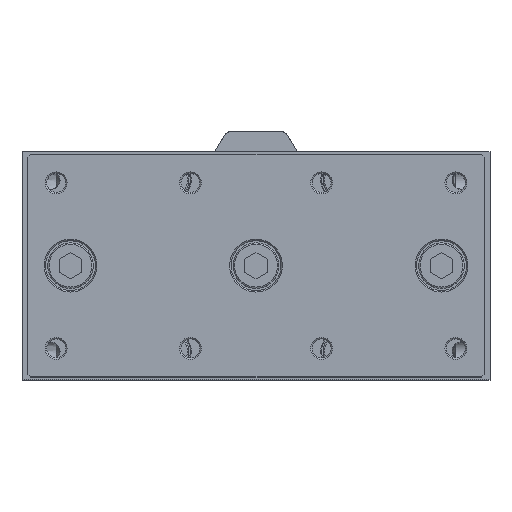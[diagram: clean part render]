
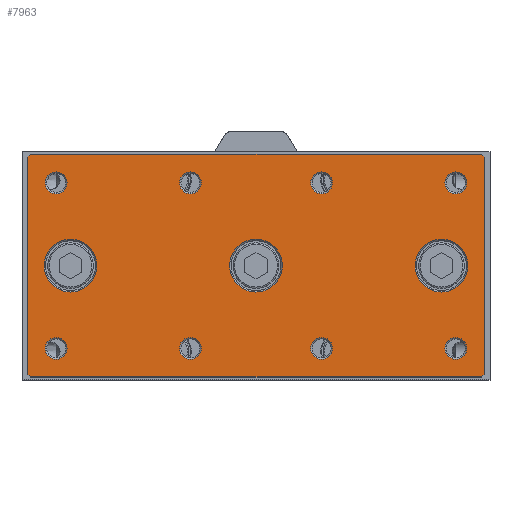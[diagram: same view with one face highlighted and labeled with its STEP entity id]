
A CAD part, top view. The second image highlights one B-rep face of the part: STEP entity #7963.
In plain terms, the highlighted planar face has unit normal (0, 0, 1).
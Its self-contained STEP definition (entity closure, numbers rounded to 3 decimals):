
#7745=CARTESIAN_POINT('',(-78.641,-40.316,105.5));
#7746=VERTEX_POINT('',#7745);
#7747=CARTESIAN_POINT('',(-79.641,-39.316,105.5));
#7748=VERTEX_POINT('',#7747);
#7749=CARTESIAN_POINT('',(-78.641,-40.316,105.5));
#7750=DIRECTION('',(-0.707,0.707,0.0));
#7751=VECTOR('',#7750,1.414);
#7752=LINE('',#7749,#7751);
#7753=EDGE_CURVE('',#7746,#7748,#7752,.T.);
#7780=CARTESIAN_POINT('',(0.359,-1.316,105.5));
#7781=DIRECTION('',(0.0,0.0,1.0));
#7782=DIRECTION('',(1.0,0.0,0.0));
#7783=AXIS2_PLACEMENT_3D('',#7780,#7781,#7782);
#7784=PLANE('',#7783);
#7785=ORIENTED_EDGE('',*,*,#7753,.F.);
#7786=CARTESIAN_POINT('',(79.359,-40.316,105.5));
#7787=VERTEX_POINT('',#7786);
#7788=CARTESIAN_POINT('',(79.359,-40.316,105.5));
#7789=DIRECTION('',(-1.0,0.0,0.0));
#7790=VECTOR('',#7789,158.0);
#7791=LINE('',#7788,#7790);
#7792=EDGE_CURVE('',#7787,#7746,#7791,.T.);
#7793=ORIENTED_EDGE('',*,*,#7792,.F.);
#7794=CARTESIAN_POINT('',(80.359,-39.316,105.5));
#7795=VERTEX_POINT('',#7794);
#7796=CARTESIAN_POINT('',(80.359,-39.316,105.5));
#7797=DIRECTION('',(-0.707,-0.707,0.0));
#7798=VECTOR('',#7797,1.414);
#7799=LINE('',#7796,#7798);
#7800=EDGE_CURVE('',#7795,#7787,#7799,.T.);
#7801=ORIENTED_EDGE('',*,*,#7800,.F.);
#7802=CARTESIAN_POINT('',(80.359,36.684,105.5));
#7803=VERTEX_POINT('',#7802);
#7804=CARTESIAN_POINT('',(80.359,36.684,105.5));
#7805=DIRECTION('',(0.0,-1.0,0.0));
#7806=VECTOR('',#7805,76.);
#7807=LINE('',#7804,#7806);
#7808=EDGE_CURVE('',#7803,#7795,#7807,.T.);
#7809=ORIENTED_EDGE('',*,*,#7808,.F.);
#7810=CARTESIAN_POINT('',(79.359,37.684,105.5));
#7811=VERTEX_POINT('',#7810);
#7812=CARTESIAN_POINT('',(79.359,37.684,105.5));
#7813=DIRECTION('',(0.707,-0.707,0.0));
#7814=VECTOR('',#7813,1.414);
#7815=LINE('',#7812,#7814);
#7816=EDGE_CURVE('',#7811,#7803,#7815,.T.);
#7817=ORIENTED_EDGE('',*,*,#7816,.F.);
#7818=CARTESIAN_POINT('',(-78.641,37.684,105.5));
#7819=VERTEX_POINT('',#7818);
#7820=CARTESIAN_POINT('',(-78.641,37.684,105.5));
#7821=DIRECTION('',(1.0,0.0,0.0));
#7822=VECTOR('',#7821,158.0);
#7823=LINE('',#7820,#7822);
#7824=EDGE_CURVE('',#7819,#7811,#7823,.T.);
#7825=ORIENTED_EDGE('',*,*,#7824,.F.);
#7826=CARTESIAN_POINT('',(-79.641,36.684,105.5));
#7827=VERTEX_POINT('',#7826);
#7828=CARTESIAN_POINT('',(-79.641,36.684,105.5));
#7829=DIRECTION('',(0.707,0.707,0.0));
#7830=VECTOR('',#7829,1.414);
#7831=LINE('',#7828,#7830);
#7832=EDGE_CURVE('',#7827,#7819,#7831,.T.);
#7833=ORIENTED_EDGE('',*,*,#7832,.F.);
#7834=CARTESIAN_POINT('',(-79.641,-39.316,105.5));
#7835=DIRECTION('',(0.0,1.0,0.0));
#7836=VECTOR('',#7835,76.0);
#7837=LINE('',#7834,#7836);
#7838=EDGE_CURVE('',#7748,#7827,#7837,.T.);
#7839=ORIENTED_EDGE('',*,*,#7838,.F.);
#7840=EDGE_LOOP('',(#7785,#7793,#7801,#7809,#7817,#7825,#7833,#7839));
#7841=FACE_OUTER_BOUND('',#7840,.T.);
#7842=CARTESIAN_POINT('',(-65.818,27.684,105.5));
#7843=VERTEX_POINT('',#7842);
#7844=CARTESIAN_POINT('',(-69.641,27.684,105.5));
#7845=DIRECTION('',(0.0,0.0,1.0));
#7846=DIRECTION('',(-1.0,0.0,0.0));
#7847=AXIS2_PLACEMENT_3D('',#7844,#7845,#7846);
#7848=CIRCLE('',#7847,3.823);
#7849=EDGE_CURVE('',#7843,#7843,#7848,.T.);
#7850=ORIENTED_EDGE('',*,*,#7849,.F.);
#7851=EDGE_LOOP('',(#7850));
#7852=FACE_BOUND('',#7851,.T.);
#7853=CARTESIAN_POINT('',(-18.818,27.684,105.5));
#7854=VERTEX_POINT('',#7853);
#7855=CARTESIAN_POINT('',(-22.641,27.684,105.5));
#7856=DIRECTION('',(0.0,0.0,1.0));
#7857=DIRECTION('',(-1.0,0.0,0.0));
#7858=AXIS2_PLACEMENT_3D('',#7855,#7856,#7857);
#7859=CIRCLE('',#7858,3.823);
#7860=EDGE_CURVE('',#7854,#7854,#7859,.T.);
#7861=ORIENTED_EDGE('',*,*,#7860,.F.);
#7862=EDGE_LOOP('',(#7861));
#7863=FACE_BOUND('',#7862,.T.);
#7864=CARTESIAN_POINT('',(9.609,-1.316,105.5));
#7865=VERTEX_POINT('',#7864);
#7866=CARTESIAN_POINT('',(0.359,-1.316,105.5));
#7867=DIRECTION('',(0.0,0.0,1.0));
#7868=DIRECTION('',(-1.0,0.0,0.0));
#7869=AXIS2_PLACEMENT_3D('',#7866,#7867,#7868);
#7870=CIRCLE('',#7869,9.25);
#7871=EDGE_CURVE('',#7865,#7865,#7870,.T.);
#7872=ORIENTED_EDGE('',*,*,#7871,.F.);
#7873=EDGE_LOOP('',(#7872));
#7874=FACE_BOUND('',#7873,.T.);
#7875=CARTESIAN_POINT('',(74.609,-1.316,105.5));
#7876=VERTEX_POINT('',#7875);
#7877=CARTESIAN_POINT('',(65.359,-1.316,105.5));
#7878=DIRECTION('',(0.0,0.0,1.0));
#7879=DIRECTION('',(-1.0,0.0,0.0));
#7880=AXIS2_PLACEMENT_3D('',#7877,#7878,#7879);
#7881=CIRCLE('',#7880,9.25);
#7882=EDGE_CURVE('',#7876,#7876,#7881,.T.);
#7883=ORIENTED_EDGE('',*,*,#7882,.F.);
#7884=EDGE_LOOP('',(#7883));
#7885=FACE_BOUND('',#7884,.T.);
#7886=CARTESIAN_POINT('',(-55.391,-1.316,105.5));
#7887=VERTEX_POINT('',#7886);
#7888=CARTESIAN_POINT('',(-64.641,-1.316,105.5));
#7889=DIRECTION('',(0.0,0.0,1.0));
#7890=DIRECTION('',(-1.0,0.0,0.0));
#7891=AXIS2_PLACEMENT_3D('',#7888,#7889,#7890);
#7892=CIRCLE('',#7891,9.25);
#7893=EDGE_CURVE('',#7887,#7887,#7892,.T.);
#7894=ORIENTED_EDGE('',*,*,#7893,.F.);
#7895=EDGE_LOOP('',(#7894));
#7896=FACE_BOUND('',#7895,.T.);
#7897=CARTESIAN_POINT('',(74.182,-30.316,105.5));
#7898=VERTEX_POINT('',#7897);
#7899=CARTESIAN_POINT('',(70.359,-30.316,105.5));
#7900=DIRECTION('',(0.0,0.0,1.0));
#7901=DIRECTION('',(-1.0,0.0,0.0));
#7902=AXIS2_PLACEMENT_3D('',#7899,#7900,#7901);
#7903=CIRCLE('',#7902,3.823);
#7904=EDGE_CURVE('',#7898,#7898,#7903,.T.);
#7905=ORIENTED_EDGE('',*,*,#7904,.F.);
#7906=EDGE_LOOP('',(#7905));
#7907=FACE_BOUND('',#7906,.T.);
#7908=CARTESIAN_POINT('',(-65.818,-30.316,105.5));
#7909=VERTEX_POINT('',#7908);
#7910=CARTESIAN_POINT('',(-69.641,-30.316,105.5));
#7911=DIRECTION('',(0.0,0.0,1.0));
#7912=DIRECTION('',(-1.0,0.0,0.0));
#7913=AXIS2_PLACEMENT_3D('',#7910,#7911,#7912);
#7914=CIRCLE('',#7913,3.823);
#7915=EDGE_CURVE('',#7909,#7909,#7914,.T.);
#7916=ORIENTED_EDGE('',*,*,#7915,.F.);
#7917=EDGE_LOOP('',(#7916));
#7918=FACE_BOUND('',#7917,.T.);
#7919=CARTESIAN_POINT('',(74.182,27.684,105.5));
#7920=VERTEX_POINT('',#7919);
#7921=CARTESIAN_POINT('',(70.359,27.684,105.5));
#7922=DIRECTION('',(0.0,0.0,1.0));
#7923=DIRECTION('',(-1.0,0.0,0.0));
#7924=AXIS2_PLACEMENT_3D('',#7921,#7922,#7923);
#7925=CIRCLE('',#7924,3.823);
#7926=EDGE_CURVE('',#7920,#7920,#7925,.T.);
#7927=ORIENTED_EDGE('',*,*,#7926,.F.);
#7928=EDGE_LOOP('',(#7927));
#7929=FACE_BOUND('',#7928,.T.);
#7930=CARTESIAN_POINT('',(27.182,-30.316,105.5));
#7931=VERTEX_POINT('',#7930);
#7932=CARTESIAN_POINT('',(23.359,-30.316,105.5));
#7933=DIRECTION('',(0.0,0.0,1.0));
#7934=DIRECTION('',(-1.0,0.0,0.0));
#7935=AXIS2_PLACEMENT_3D('',#7932,#7933,#7934);
#7936=CIRCLE('',#7935,3.824);
#7937=EDGE_CURVE('',#7931,#7931,#7936,.T.);
#7938=ORIENTED_EDGE('',*,*,#7937,.F.);
#7939=EDGE_LOOP('',(#7938));
#7940=FACE_BOUND('',#7939,.T.);
#7941=CARTESIAN_POINT('',(-18.818,-30.316,105.5));
#7942=VERTEX_POINT('',#7941);
#7943=CARTESIAN_POINT('',(-22.641,-30.316,105.5));
#7944=DIRECTION('',(0.0,0.0,1.0));
#7945=DIRECTION('',(-1.0,0.0,0.0));
#7946=AXIS2_PLACEMENT_3D('',#7943,#7944,#7945);
#7947=CIRCLE('',#7946,3.823);
#7948=EDGE_CURVE('',#7942,#7942,#7947,.T.);
#7949=ORIENTED_EDGE('',*,*,#7948,.F.);
#7950=EDGE_LOOP('',(#7949));
#7951=FACE_BOUND('',#7950,.T.);
#7952=CARTESIAN_POINT('',(27.182,27.684,105.5));
#7953=VERTEX_POINT('',#7952);
#7954=CARTESIAN_POINT('',(23.359,27.684,105.5));
#7955=DIRECTION('',(0.0,0.0,1.0));
#7956=DIRECTION('',(-1.0,0.0,0.0));
#7957=AXIS2_PLACEMENT_3D('',#7954,#7955,#7956);
#7958=CIRCLE('',#7957,3.824);
#7959=EDGE_CURVE('',#7953,#7953,#7958,.T.);
#7960=ORIENTED_EDGE('',*,*,#7959,.F.);
#7961=EDGE_LOOP('',(#7960));
#7962=FACE_BOUND('',#7961,.T.);
#7963=ADVANCED_FACE('',(#7841,#7852,#7863,#7874,#7885,#7896,#7907,#7918,#7929,#7940,#7951,#7962),#7784,.T.);
